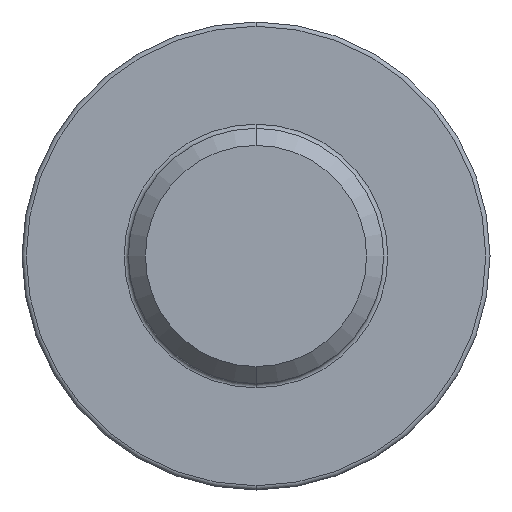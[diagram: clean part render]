
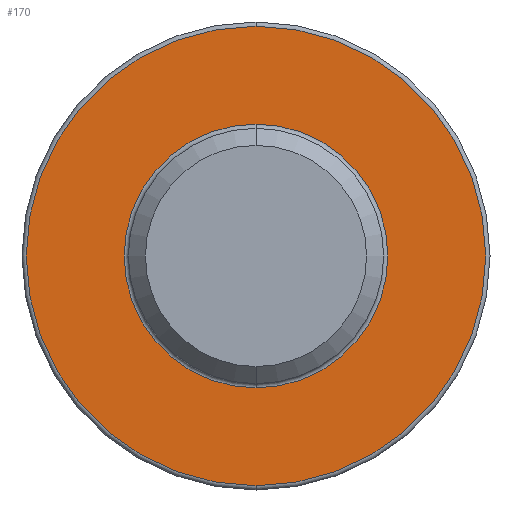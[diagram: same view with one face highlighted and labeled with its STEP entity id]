
A CAD part, front view. The second image highlights one B-rep face of the part: STEP entity #170.
In plain terms, the highlighted planar face has unit normal (0, -1, 0).
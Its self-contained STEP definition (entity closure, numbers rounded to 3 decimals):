
#19 = DIRECTION ( 'NONE',  ( 0., 1., 0. ) ) ;
#22 = EDGE_LOOP ( 'NONE', ( #268, #387 ) ) ;
#41 = CARTESIAN_POINT ( 'NONE',  ( 0., -1.6, 2.7 ) ) ;
#61 = CARTESIAN_POINT ( 'NONE',  ( 0., -1.6, 0. ) ) ;
#113 = CARTESIAN_POINT ( 'NONE',  ( 0., -1.6, 1.55 ) ) ;
#123 = VERTEX_POINT ( 'NONE', #602 ) ;
#144 = FACE_BOUND ( 'NONE', #22, .T. ) ;
#147 = CIRCLE ( 'NONE', #437, 1.55 ) ;
#170 = ADVANCED_FACE ( 'NONE', ( #144, #672 ), #340, .F. ) ;
#192 = AXIS2_PLACEMENT_3D ( 'NONE', #402, #202, #464 ) ;
#202 = DIRECTION ( 'NONE',  ( 0., -1., 0. ) ) ;
#212 = EDGE_CURVE ( 'NONE', #786, #123, #718, .T. ) ;
#219 = CIRCLE ( 'NONE', #406, 2.7 ) ;
#222 = EDGE_LOOP ( 'NONE', ( #323, #620 ) ) ;
#268 = ORIENTED_EDGE ( 'NONE', *, *, #536, .T. ) ;
#316 = CIRCLE ( 'NONE', #417, 1.55 ) ;
#323 = ORIENTED_EDGE ( 'NONE', *, *, #212, .T. ) ;
#340 = PLANE ( 'NONE',  #343 ) ;
#343 = AXIS2_PLACEMENT_3D ( 'NONE', #663, #528, #875 ) ;
#349 = DIRECTION ( 'NONE',  ( 0., 1., 0. ) ) ;
#354 = DIRECTION ( 'NONE',  ( 0., 0., 1. ) ) ;
#374 = CARTESIAN_POINT ( 'NONE',  ( 0., -1.6, -1.55 ) ) ;
#385 = CARTESIAN_POINT ( 'NONE',  ( 0., -1.6, 0. ) ) ;
#387 = ORIENTED_EDGE ( 'NONE', *, *, #610, .T. ) ;
#402 = CARTESIAN_POINT ( 'NONE',  ( 0., -1.6, 0. ) ) ;
#406 = AXIS2_PLACEMENT_3D ( 'NONE', #385, #855, #649 ) ;
#417 = AXIS2_PLACEMENT_3D ( 'NONE', #61, #349, #810 ) ;
#430 = VERTEX_POINT ( 'NONE', #374 ) ;
#437 = AXIS2_PLACEMENT_3D ( 'NONE', #546, #19, #354 ) ;
#458 = EDGE_CURVE ( 'NONE', #123, #786, #219, .T. ) ;
#464 = DIRECTION ( 'NONE',  ( 0., 0., 1. ) ) ;
#528 = DIRECTION ( 'NONE',  ( 0., 1., 0. ) ) ;
#536 = EDGE_CURVE ( 'NONE', #735, #430, #316, .T. ) ;
#546 = CARTESIAN_POINT ( 'NONE',  ( 0., -1.6, 0. ) ) ;
#602 = CARTESIAN_POINT ( 'NONE',  ( 0., -1.6, -2.7 ) ) ;
#610 = EDGE_CURVE ( 'NONE', #430, #735, #147, .T. ) ;
#620 = ORIENTED_EDGE ( 'NONE', *, *, #458, .T. ) ;
#649 = DIRECTION ( 'NONE',  ( 0., 0., 1. ) ) ;
#663 = CARTESIAN_POINT ( 'NONE',  ( 1.5, -1.6, 0. ) ) ;
#672 = FACE_OUTER_BOUND ( 'NONE', #222, .T. ) ;
#718 = CIRCLE ( 'NONE', #192, 2.7 ) ;
#735 = VERTEX_POINT ( 'NONE', #113 ) ;
#786 = VERTEX_POINT ( 'NONE', #41 ) ;
#810 = DIRECTION ( 'NONE',  ( 0., 0., 1. ) ) ;
#855 = DIRECTION ( 'NONE',  ( 0., -1., 0. ) ) ;
#875 = DIRECTION ( 'NONE',  ( 0., 0., 1. ) ) ;
